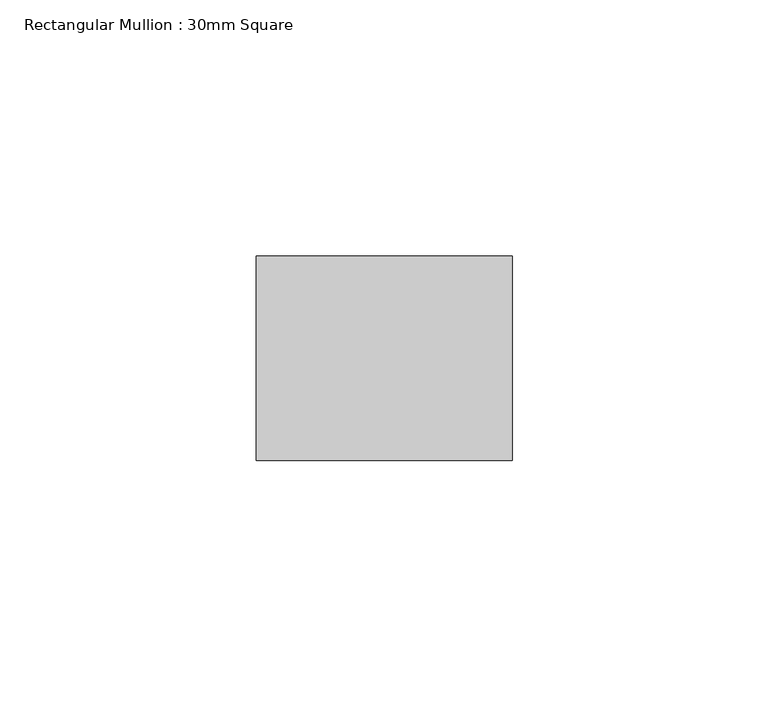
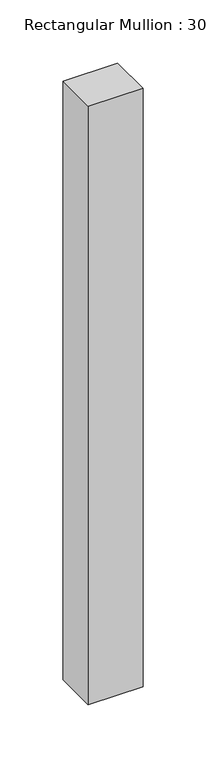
"""IFC4 building model written with IfcOpenShell, lengths in millimetres: member geometry, Rectangular Mullion : 30mm Square."""

from ifc_helpers import new_model, si_unit, frame, origin, place, context, project, spatial, polyline, outline, extrude, source, transform, mapped, element, save


def rectangular_mullion_30mm_square_243782b9(model_context):
    return source(origin(), model_context, "Body", "SweptSolid", [
        extrude(outline(polyline([(0.0, 20.0), (0.0, -20.0), (-50.0, -20.0), (-50.0, 20.0), (0.0, 20.0)])), frame((0.0, 0.0, -578.2555545), z_axis=(0.0, 0.0, 1.0), x_axis=(1.0, 0.0, 0.0)), (0.0, 0.0, 1.0), 578.2555545),
    ])


if __name__ == "__main__":
    model = new_model("IFC4")
    model_context = context("Model", 3, world=origin())
    ifc_project = project(units=[si_unit("LENGTHUNIT", "METRE", prefix="MILLI")], contexts=[model_context])
    site = spatial("IfcSite", under=ifc_project)
    building = spatial("IfcBuilding", under=site)
    placement = place(None, origin())
    rectangular_mullion_30mm_square_shape = rectangular_mullion_30mm_square_243782b9(model_context)
    element("IfcMember", 1, ObjectType="Rectangular Mullion : 30mm Square", at=placement, inside=building, context=model_context, shape_type="MappedRepresentation", body=[
        mapped(rectangular_mullion_30mm_square_shape, transform((0.0, 0.0, 0.0), x_axis=(1.0, 0.0, 0.0), y_axis=(0.0, 1.0, 0.0), z_axis=(0.0, 0.0, 1.0))),
    ])
    save(model, "model.ifc")
